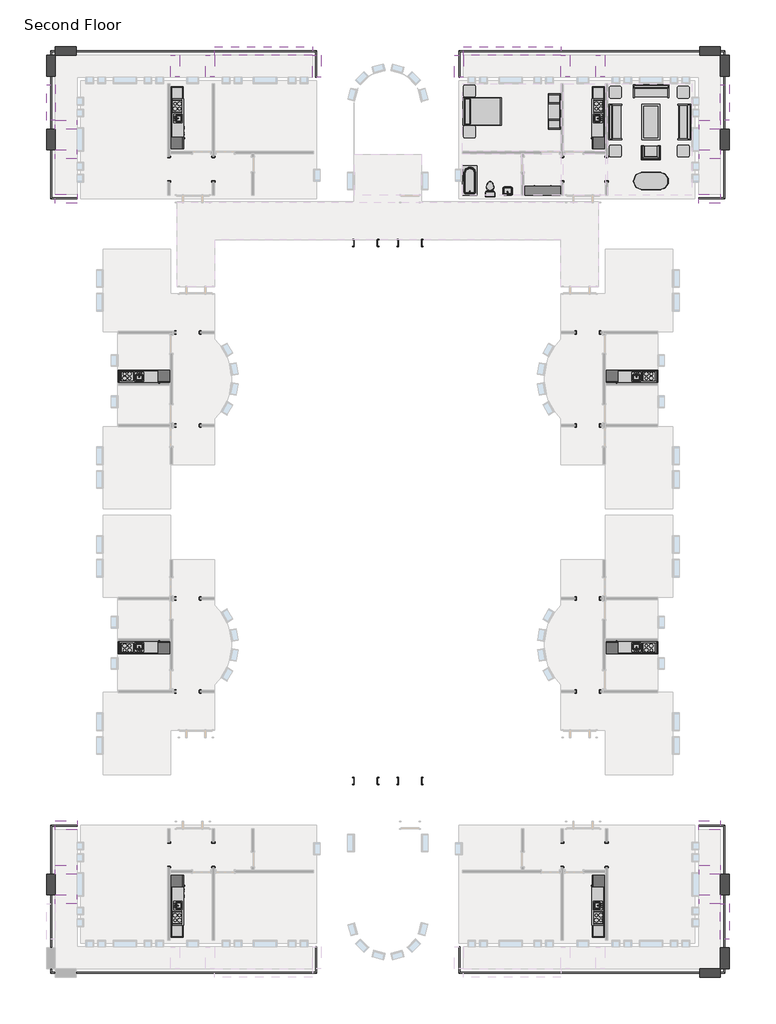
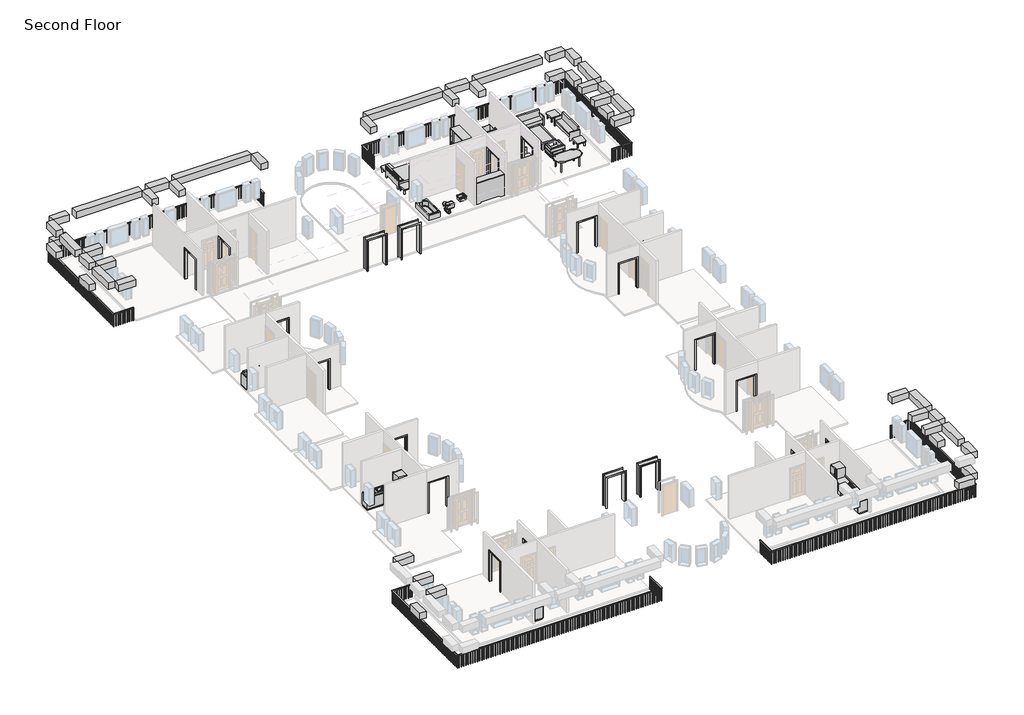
# One storey, part 4 of 4: 33 beams, 28 proxies, 15 furniture elements, 4 railings, 3 flow terminals.
"""IFC4 building model written with IfcOpenShell, lengths in millimetres."""

from ifc_helpers import new_model, si_unit, frame, origin, place, context, project, spatial, polyline, outline, extrude, transform, mapped, element, save
from components import kitchenette_medium_5_9f73a4de, kitchenette_medium_5_952fb32b, proxy_64a468c4, proxy_b7eaed23, proxy_f44482cc, proxy_c3589814, proxy_d58c73d0, proxy_1659ed5c, flow_terminal_0aeb31e3, toilet_domestic_3d_toilet_domestic_3d_f7549cf7, toilet_domestic_3d_toilet_domestic_3d_183bbd19, tub_rectangular_3d_tub_rectangular_3d_5e45a89b, furniture_096e7f55, chair_corbu_chair_corbu_2764bdef, furniture_7c473f12, furniture_ddc78764, furniture_4ef38d96, furniture_cd93a443, furniture_2c34a4f9, furniture_3a588284, furniture_1befe2a2, handrail_rectangular_d66f6947, handrail_rectangular_5e4642fa, handrail_rectangular_a9532e81, handrail_rectangular_55d58416

model = new_model("IFC4")

# Units and contexts
model_context = context("Model", 3, world=origin())
ifc_project = project(units=[si_unit("LENGTHUNIT", "METRE", prefix="MILLI")], contexts=[model_context])

# Site, building, storey
site = spatial("IfcSite", under=ifc_project)
building = spatial("IfcBuilding", under=site)
storey = spatial("IfcBuildingStorey", under=building, Name="Second Floor", Elevation=3048.0)

# Beams
placement = place(None, origin())
element("IfcBeam", 1, ObjectType="Concrete-Rectangular Beam : 18 x 18", at=placement, inside=storey, context=model_context, shape_type="SweptSolid", body=[
    extrude(outline(polyline([(2093.9410437, 12198.8316867), (2093.9410437, 11741.6316867), (1027.1410437, 11741.6316867), (1027.1410437, 12198.8316867), (2093.9410437, 12198.8316867)])), frame((0.0, 0.0, 5638.8), z_axis=(0.0, 0.0, 1.0), x_axis=(1.0, 0.0, 0.0)), (0.0, 0.0, 1.0), 457.2),
    extrude(outline(polyline([(569.9410437, 12198.8316867), (569.9410437, 11741.6316867), (-3862.3589563, 11741.6316867), (-3862.3589563, 12198.8316867), (569.9410437, 12198.8316867)])), frame((0.0, 0.0, 5638.8), z_axis=(0.0, 0.0, 1.0), x_axis=(1.0, 0.0, 0.0)), (0.0, 0.0, 1.0), 457.2),
    extrude(outline(polyline([(-5665.7589563, 11741.6316867), (-5665.7589563, 12198.8316867), (-4319.5589563, 12198.8316867), (-4319.5589563, 11741.6316867), (-5665.7589563, 11741.6316867)])), frame((0.0, 0.0, 5638.8), z_axis=(0.0, 0.0, 1.0), x_axis=(1.0, 0.0, 0.0)), (0.0, 0.0, 1.0), 457.2),
    extrude(outline(polyline([(-6122.9589563, 12198.8316867), (-6122.9589563, 11741.6316867), (-11164.8589563, 11741.6316867), (-11164.8589563, 12198.8316867), (-6122.9589563, 12198.8316867)])), frame((0.0, 0.0, 5638.8), z_axis=(0.0, 0.0, 1.0), x_axis=(1.0, 0.0, 0.0)), (0.0, 0.0, 1.0), 457.2),
])
element("IfcBeam", 2, ObjectType="Concrete-Rectangular Beam : 18 x 18", at=placement, inside=storey, context=model_context, shape_type="SweptSolid", body=[
    extrude(outline(polyline([(2093.9410437, 11741.6316867), (2551.1410437, 11741.6316867), (2551.1410437, 10674.8316867), (2093.9410437, 10674.8316867), (2093.9410437, 11741.6316867)])), frame((0.0, 0.0, 5638.8), z_axis=(0.0, 0.0, 1.0), x_axis=(1.0, 0.0, 0.0)), (0.0, 0.0, 1.0), 457.2),
    extrude(outline(polyline([(2551.1410437, 4578.8316867), (2093.9410437, 4578.8316867), (2093.9410437, 6407.6316867), (2551.1410437, 6407.6316867), (2551.1410437, 4578.8316867)])), frame((0.0, 0.0, 5638.8), z_axis=(0.0, 0.0, 1.0), x_axis=(1.0, 0.0, 0.0)), (0.0, 0.0, 1.0), 457.2),
    extrude(outline(polyline([(2551.1410437, 6864.8316867), (2093.9410437, 6864.8316867), (2093.9410437, 7931.6316867), (2551.1410437, 7931.6316867), (2551.1410437, 6864.8316867)])), frame((0.0, 0.0, 5638.8), z_axis=(0.0, 0.0, 1.0), x_axis=(1.0, 0.0, 0.0)), (0.0, 0.0, 1.0), 457.2),
    extrude(outline(polyline([(2093.9410437, 10217.6316867), (2551.1410437, 10217.6316867), (2551.1410437, 8388.8316867), (2093.9410437, 8388.8316867), (2093.9410437, 10217.6316867)])), frame((0.0, 0.0, 5638.8), z_axis=(0.0, 0.0, 1.0), x_axis=(1.0, 0.0, 0.0)), (0.0, 0.0, 1.0), 457.2),
])
element("IfcBeam", 3, ObjectType="Concrete-Rectangular Beam : 18 x 18", at=placement, inside=storey, context=model_context, shape_type="SweptSolid", body=[
    extrude(outline(polyline([(2093.9410437, 12198.8316867), (2093.9410437, 11741.6316867), (1027.1410437, 11741.6316867), (1027.1410437, 12198.8316867), (2093.9410437, 12198.8316867)])), frame((0.0, 0.0, 4114.8), z_axis=(0.0, 0.0, 1.0), x_axis=(1.0, 0.0, 0.0)), (0.0, 0.0, 1.0), 457.2),
])
element("IfcBeam", 4, ObjectType="Concrete-Rectangular Beam : 18 x 18", at=placement, inside=storey, context=model_context, shape_type="SweptSolid", body=[
    extrude(outline(polyline([(2551.1410437, 10674.8316867), (2093.9410437, 10674.8316867), (2093.9410437, 11741.6316867), (2551.1410437, 11741.6316867), (2551.1410437, 10674.8316867)])), frame((0.0, 0.0, 4114.8), z_axis=(0.0, 0.0, 1.0), x_axis=(1.0, 0.0, 0.0)), (0.0, 0.0, 1.0), 457.2),
])
element("IfcBeam", 5, ObjectType="Concrete-Rectangular Beam : 18 x 18", at=placement, inside=storey, context=model_context, shape_type="SweptSolid", body=[
    extrude(outline(polyline([(-11164.8589563, 10624.0316867), (-11622.0589563, 10624.0316867), (-11622.0589563, 11741.6316867), (-11164.8589563, 11741.6316867), (-11164.8589563, 10624.0316867)])), frame((0.0, 0.0, 5638.8), z_axis=(0.0, 0.0, 1.0), x_axis=(1.0, 0.0, 0.0)), (0.0, 0.0, 1.0), 457.2),
])
element("IfcBeam", 6, ObjectType="Concrete-Rectangular Beam : 18 x 18", at=placement, inside=storey, context=model_context, shape_type="SweptSolid", body=[
    extrude(outline(polyline([(-5665.7589563, 10643.0816867), (-6122.9589563, 10643.0816867), (-6122.9589563, 11741.6316867), (-5665.7589563, 11741.6316867), (-5665.7589563, 10643.0816867)])), frame((0.0, 0.0, 5638.8), z_axis=(0.0, 0.0, 1.0), x_axis=(1.0, 0.0, 0.0)), (0.0, 0.0, 1.0), 457.2),
])
element("IfcBeam", 7, ObjectType="Concrete-Rectangular Beam : 18 x 18", at=placement, inside=storey, context=model_context, shape_type="SweptSolid", body=[
    extrude(outline(polyline([(1001.7410437, 6407.6316867), (1001.7410437, 6864.8316867), (2093.9410437, 6864.8316867), (2093.9410437, 6407.6316867), (1001.7410437, 6407.6316867)])), frame((0.0, 0.0, 5638.8), z_axis=(0.0, 0.0, 1.0), x_axis=(1.0, 0.0, 0.0)), (0.0, 0.0, 1.0), 457.2),
])
element("IfcBeam", 8, ObjectType="Concrete-Rectangular Beam : 18 x 18", at=placement, inside=storey, context=model_context, shape_type="SweptSolid", body=[
    extrude(outline(polyline([(-3862.3589563, 10643.0816867), (-4319.5589563, 10643.0816867), (-4319.5589563, 11741.6316867), (-3862.3589563, 11741.6316867), (-3862.3589563, 10643.0816867)])), frame((0.0, 0.0, 5638.8), z_axis=(0.0, 0.0, 1.0), x_axis=(1.0, 0.0, 0.0)), (0.0, 0.0, 1.0), 457.2),
])
element("IfcBeam", 9, ObjectType="Concrete-Rectangular Beam : 18 x 18", at=placement, inside=storey, context=model_context, shape_type="SweptSolid", body=[
    extrude(outline(polyline([(1001.7410437, 7931.6316867), (1001.7410437, 8388.8316867), (2093.9410437, 8388.8316867), (2093.9410437, 7931.6316867), (1001.7410437, 7931.6316867)])), frame((0.0, 0.0, 5638.8), z_axis=(0.0, 0.0, 1.0), x_axis=(1.0, 0.0, 0.0)), (0.0, 0.0, 1.0), 457.2),
])
element("IfcBeam", 10, ObjectType="Concrete-Rectangular Beam : 18 x 18", at=placement, inside=storey, context=model_context, shape_type="SweptSolid", body=[
    extrude(outline(polyline([(976.3410437, 4121.6316867), (976.3410437, 4578.8316867), (2093.9410437, 4578.8316867), (2093.9410437, 4121.6316867), (976.3410437, 4121.6316867)])), frame((0.0, 0.0, 5638.8), z_axis=(0.0, 0.0, 1.0), x_axis=(1.0, 0.0, 0.0)), (0.0, 0.0, 1.0), 457.2),
])
element("IfcBeam", 11, ObjectType="Concrete-Rectangular Beam : 18 x 18", at=placement, inside=storey, context=model_context, shape_type="SweptSolid", body=[
    extrude(outline(polyline([(2551.1410437, 6864.8316867), (2093.9410437, 6864.8316867), (2093.9410437, 7931.6316867), (2551.1410437, 7931.6316867), (2551.1410437, 6864.8316867)])), frame((0.0, 0.0, 4114.8), z_axis=(0.0, 0.0, 1.0), x_axis=(1.0, 0.0, 0.0)), (0.0, 0.0, 1.0), 457.2),
])
element("IfcBeam", 12, ObjectType="Concrete-Rectangular Beam : 18 x 18", at=placement, inside=storey, context=model_context, shape_type="SweptSolid", body=[
    extrude(outline(polyline([(-32218.2839563, 11741.6316867), (-32218.2839563, 12198.8316867), (-31151.4839563, 12198.8316867), (-31151.4839563, 11741.6316867), (-32218.2839563, 11741.6316867)])), frame((0.0, 0.0, 5638.8), z_axis=(0.0, 0.0, 1.0), x_axis=(1.0, 0.0, 0.0)), (0.0, 0.0, 1.0), 457.2),
    extrude(outline(polyline([(-30694.2839563, 11741.6316867), (-30694.2839563, 12198.8316867), (-26261.9839563, 12198.8316867), (-26261.9839563, 11741.6316867), (-30694.2839563, 11741.6316867)])), frame((0.0, 0.0, 5638.8), z_axis=(0.0, 0.0, 1.0), x_axis=(1.0, 0.0, 0.0)), (0.0, 0.0, 1.0), 457.2),
    extrude(outline(polyline([(-24458.5839563, 12198.8316867), (-24458.5839563, 11741.6316867), (-25804.7839563, 11741.6316867), (-25804.7839563, 12198.8316867), (-24458.5839563, 12198.8316867)])), frame((0.0, 0.0, 5638.8), z_axis=(0.0, 0.0, 1.0), x_axis=(1.0, 0.0, 0.0)), (0.0, 0.0, 1.0), 457.2),
    extrude(outline(polyline([(-24001.3839563, 11741.6316867), (-24001.3839563, 12198.8316867), (-18959.4839563, 12198.8316867), (-18959.4839563, 11741.6316867), (-24001.3839563, 11741.6316867)])), frame((0.0, 0.0, 5638.8), z_axis=(0.0, 0.0, 1.0), x_axis=(1.0, 0.0, 0.0)), (0.0, 0.0, 1.0), 457.2),
])
element("IfcBeam", 13, ObjectType="Concrete-Rectangular Beam : 18 x 18", at=placement, inside=storey, context=model_context, shape_type="SweptSolid", body=[
    extrude(outline(polyline([(-32218.2839563, 4578.8316867), (-32675.4839563, 4578.8316867), (-32675.4839563, 6407.6316867), (-32218.2839563, 6407.6316867), (-32218.2839563, 4578.8316867)])), frame((0.0, 0.0, 5638.8), z_axis=(0.0, 0.0, 1.0), x_axis=(1.0, 0.0, 0.0)), (0.0, 0.0, 1.0), 457.2),
    extrude(outline(polyline([(-32675.4839563, 11741.6316867), (-32218.2839563, 11741.6316867), (-32218.2839563, 10674.8316867), (-32675.4839563, 10674.8316867), (-32675.4839563, 11741.6316867)])), frame((0.0, 0.0, 5638.8), z_axis=(0.0, 0.0, 1.0), x_axis=(1.0, 0.0, 0.0)), (0.0, 0.0, 1.0), 457.2),
    extrude(outline(polyline([(-32218.2839563, 6864.8316867), (-32675.4839563, 6864.8316867), (-32675.4839563, 7931.6316867), (-32218.2839563, 7931.6316867), (-32218.2839563, 6864.8316867)])), frame((0.0, 0.0, 5638.8), z_axis=(0.0, 0.0, 1.0), x_axis=(1.0, 0.0, 0.0)), (0.0, 0.0, 1.0), 457.2),
    extrude(outline(polyline([(-32675.4839563, 10217.6316867), (-32218.2839563, 10217.6316867), (-32218.2839563, 8388.8316867), (-32675.4839563, 8388.8316867), (-32675.4839563, 10217.6316867)])), frame((0.0, 0.0, 5638.8), z_axis=(0.0, 0.0, 1.0), x_axis=(1.0, 0.0, 0.0)), (0.0, 0.0, 1.0), 457.2),
])
element("IfcBeam", 14, ObjectType="Concrete-Rectangular Beam : 18 x 18", at=placement, inside=storey, context=model_context, shape_type="SweptSolid", body=[
    extrude(outline(polyline([(-32218.2839563, 12198.8316867), (-31151.4839563, 12198.8316867), (-31151.4839563, 11741.6316867), (-32218.2839563, 11741.6316867), (-32218.2839563, 12198.8316867)])), frame((0.0, 0.0, 4114.8), z_axis=(0.0, 0.0, 1.0), x_axis=(1.0, 0.0, 0.0)), (0.0, 0.0, 1.0), 457.2),
])
element("IfcBeam", 15, ObjectType="Concrete-Rectangular Beam : 18 x 18", at=placement, inside=storey, context=model_context, shape_type="SweptSolid", body=[
    extrude(outline(polyline([(-32675.4839563, 10674.8316867), (-32675.4839563, 11741.6316867), (-32218.2839563, 11741.6316867), (-32218.2839563, 10674.8316867), (-32675.4839563, 10674.8316867)])), frame((0.0, 0.0, 4114.8), z_axis=(0.0, 0.0, 1.0), x_axis=(1.0, 0.0, 0.0)), (0.0, 0.0, 1.0), 457.2),
])
element("IfcBeam", 16, ObjectType="Concrete-Rectangular Beam : 18 x 18", at=placement, inside=storey, context=model_context, shape_type="SweptSolid", body=[
    extrude(outline(polyline([(-18502.2839563, 10624.0316867), (-18959.4839563, 10624.0316867), (-18959.4839563, 11741.6316867), (-18502.2839563, 11741.6316867), (-18502.2839563, 10624.0316867)])), frame((0.0, 0.0, 5638.8), z_axis=(0.0, 0.0, 1.0), x_axis=(1.0, 0.0, 0.0)), (0.0, 0.0, 1.0), 457.2),
])
element("IfcBeam", 17, ObjectType="Concrete-Rectangular Beam : 18 x 18", at=placement, inside=storey, context=model_context, shape_type="SweptSolid", body=[
    extrude(outline(polyline([(-24001.3839563, 10643.0816867), (-24458.5839563, 10643.0816867), (-24458.5839563, 11741.6316867), (-24001.3839563, 11741.6316867), (-24001.3839563, 10643.0816867)])), frame((0.0, 0.0, 5638.8), z_axis=(0.0, 0.0, 1.0), x_axis=(1.0, 0.0, 0.0)), (0.0, 0.0, 1.0), 457.2),
])
element("IfcBeam", 18, ObjectType="Concrete-Rectangular Beam : 18 x 18", at=placement, inside=storey, context=model_context, shape_type="SweptSolid", body=[
    extrude(outline(polyline([(-31126.0839563, 6864.8316867), (-31126.0839563, 6407.6316867), (-32218.2839563, 6407.6316867), (-32218.2839563, 6864.8316867), (-31126.0839563, 6864.8316867)])), frame((0.0, 0.0, 5638.8), z_axis=(0.0, 0.0, 1.0), x_axis=(1.0, 0.0, 0.0)), (0.0, 0.0, 1.0), 457.2),
])
element("IfcBeam", 19, ObjectType="Concrete-Rectangular Beam : 18 x 18", at=placement, inside=storey, context=model_context, shape_type="SweptSolid", body=[
    extrude(outline(polyline([(-25804.7839563, 10643.0816867), (-26261.9839563, 10643.0816867), (-26261.9839563, 11741.6316867), (-25804.7839563, 11741.6316867), (-25804.7839563, 10643.0816867)])), frame((0.0, 0.0, 5638.8), z_axis=(0.0, 0.0, 1.0), x_axis=(1.0, 0.0, 0.0)), (0.0, 0.0, 1.0), 457.2),
])
element("IfcBeam", 20, ObjectType="Concrete-Rectangular Beam : 18 x 18", at=placement, inside=storey, context=model_context, shape_type="SweptSolid", body=[
    extrude(outline(polyline([(-31126.0839563, 8388.8316867), (-31126.0839563, 7931.6316867), (-32218.2839563, 7931.6316867), (-32218.2839563, 8388.8316867), (-31126.0839563, 8388.8316867)])), frame((0.0, 0.0, 5638.8), z_axis=(0.0, 0.0, 1.0), x_axis=(1.0, 0.0, 0.0)), (0.0, 0.0, 1.0), 457.2),
])
element("IfcBeam", 21, ObjectType="Concrete-Rectangular Beam : 18 x 18", at=placement, inside=storey, context=model_context, shape_type="SweptSolid", body=[
    extrude(outline(polyline([(-31100.6839563, 4578.8316867), (-31100.6839563, 4121.6316867), (-32218.2839563, 4121.6316867), (-32218.2839563, 4578.8316867), (-31100.6839563, 4578.8316867)])), frame((0.0, 0.0, 5638.8), z_axis=(0.0, 0.0, 1.0), x_axis=(1.0, 0.0, 0.0)), (0.0, 0.0, 1.0), 457.2),
])
element("IfcBeam", 22, ObjectType="Concrete-Rectangular Beam : 18 x 18", at=placement, inside=storey, context=model_context, shape_type="SweptSolid", body=[
    extrude(outline(polyline([(-32675.4839563, 6864.8316867), (-32675.4839563, 7931.6316867), (-32218.2839563, 7931.6316867), (-32218.2839563, 6864.8316867), (-32675.4839563, 6864.8316867)])), frame((0.0, 0.0, 4114.8), z_axis=(0.0, 0.0, 1.0), x_axis=(1.0, 0.0, 0.0)), (0.0, 0.0, 1.0), 457.2),
])
element("IfcBeam", 23, ObjectType="Concrete-Rectangular Beam : 18 x 18", at=placement, inside=storey, context=model_context, shape_type="SweptSolid", body=[
    extrude(outline(polyline([(2093.9410437, -28187.1683133), (2551.1410437, -28187.1683133), (2551.1410437, -30015.9683133), (2093.9410437, -30015.9683133), (2093.9410437, -28187.1683133)])), frame((0.0, 0.0, 5638.8), z_axis=(0.0, 0.0, 1.0), x_axis=(1.0, 0.0, 0.0)), (0.0, 0.0, 1.0), 457.2),
    extrude(outline(polyline([(2551.1410437, -35349.9683133), (2093.9410437, -35349.9683133), (2093.9410437, -34283.1683133), (2551.1410437, -34283.1683133), (2551.1410437, -35349.9683133)])), frame((0.0, 0.0, 5638.8), z_axis=(0.0, 0.0, 1.0), x_axis=(1.0, 0.0, 0.0)), (0.0, 0.0, 1.0), 457.2),
    extrude(outline(polyline([(2093.9410437, -30473.1683133), (2551.1410437, -30473.1683133), (2551.1410437, -31539.9683133), (2093.9410437, -31539.9683133), (2093.9410437, -30473.1683133)])), frame((0.0, 0.0, 5638.8), z_axis=(0.0, 0.0, 1.0), x_axis=(1.0, 0.0, 0.0)), (0.0, 0.0, 1.0), 457.2),
    extrude(outline(polyline([(2551.1410437, -33825.9683133), (2093.9410437, -33825.9683133), (2093.9410437, -31997.1683133), (2551.1410437, -31997.1683133), (2551.1410437, -33825.9683133)])), frame((0.0, 0.0, 5638.8), z_axis=(0.0, 0.0, 1.0), x_axis=(1.0, 0.0, 0.0)), (0.0, 0.0, 1.0), 457.2),
])
element("IfcBeam", 24, ObjectType="Concrete-Rectangular Beam : 18 x 18", at=placement, inside=storey, context=model_context, shape_type="SweptSolid", body=[
    extrude(outline(polyline([(2093.9410437, -35807.1683133), (1027.1410437, -35807.1683133), (1027.1410437, -35349.9683133), (2093.9410437, -35349.9683133), (2093.9410437, -35807.1683133)])), frame((0.0, 0.0, 4114.8), z_axis=(0.0, 0.0, 1.0), x_axis=(1.0, 0.0, 0.0)), (0.0, 0.0, 1.0), 457.2),
])
element("IfcBeam", 25, ObjectType="Concrete-Rectangular Beam : 18 x 18", at=placement, inside=storey, context=model_context, shape_type="SweptSolid", body=[
    extrude(outline(polyline([(2551.1410437, -34283.1683133), (2551.1410437, -35349.9683133), (2093.9410437, -35349.9683133), (2093.9410437, -34283.1683133), (2551.1410437, -34283.1683133)])), frame((0.0, 0.0, 4114.8), z_axis=(0.0, 0.0, 1.0), x_axis=(1.0, 0.0, 0.0)), (0.0, 0.0, 1.0), 457.2),
])
element("IfcBeam", 26, ObjectType="Concrete-Rectangular Beam : 18 x 18", at=placement, inside=storey, context=model_context, shape_type="SweptSolid", body=[
    extrude(outline(polyline([(1001.7410437, -30473.1683133), (1001.7410437, -30015.9683133), (2093.9410437, -30015.9683133), (2093.9410437, -30473.1683133), (1001.7410437, -30473.1683133)])), frame((0.0, 0.0, 5638.8), z_axis=(0.0, 0.0, 1.0), x_axis=(1.0, 0.0, 0.0)), (0.0, 0.0, 1.0), 457.2),
])
element("IfcBeam", 27, ObjectType="Concrete-Rectangular Beam : 18 x 18", at=placement, inside=storey, context=model_context, shape_type="SweptSolid", body=[
    extrude(outline(polyline([(1001.7410437, -31997.1683133), (1001.7410437, -31539.9683133), (2093.9410437, -31539.9683133), (2093.9410437, -31997.1683133), (1001.7410437, -31997.1683133)])), frame((0.0, 0.0, 5638.8), z_axis=(0.0, 0.0, 1.0), x_axis=(1.0, 0.0, 0.0)), (0.0, 0.0, 1.0), 457.2),
])
element("IfcBeam", 28, ObjectType="Concrete-Rectangular Beam : 18 x 18", at=placement, inside=storey, context=model_context, shape_type="SweptSolid", body=[
    extrude(outline(polyline([(976.3410437, -28187.1683133), (976.3410437, -27729.9683133), (2093.9410437, -27729.9683133), (2093.9410437, -28187.1683133), (976.3410437, -28187.1683133)])), frame((0.0, 0.0, 5638.8), z_axis=(0.0, 0.0, 1.0), x_axis=(1.0, 0.0, 0.0)), (0.0, 0.0, 1.0), 457.2),
])
element("IfcBeam", 29, ObjectType="Concrete-Rectangular Beam : 18 x 18", at=placement, inside=storey, context=model_context, shape_type="SweptSolid", body=[
    extrude(outline(polyline([(2551.1410437, -30473.1683133), (2551.1410437, -31539.9683133), (2093.9410437, -31539.9683133), (2093.9410437, -30473.1683133), (2551.1410437, -30473.1683133)])), frame((0.0, 0.0, 4114.8), z_axis=(0.0, 0.0, 1.0), x_axis=(1.0, 0.0, 0.0)), (0.0, 0.0, 1.0), 457.2),
])
element("IfcBeam", 30, ObjectType="Concrete-Rectangular Beam : 18 x 18", at=placement, inside=storey, context=model_context, shape_type="SweptSolid", body=[
    extrude(outline(polyline([(-31126.0839563, -30015.9683133), (-31126.0839563, -30473.1683133), (-32218.2839563, -30473.1683133), (-32218.2839563, -30015.9683133), (-31126.0839563, -30015.9683133)])), frame((0.0, 0.0, 5638.8), z_axis=(0.0, 0.0, 1.0), x_axis=(1.0, 0.0, 0.0)), (0.0, 0.0, 1.0), 457.2),
])
element("IfcBeam", 31, ObjectType="Concrete-Rectangular Beam : 18 x 18", at=placement, inside=storey, context=model_context, shape_type="SweptSolid", body=[
    extrude(outline(polyline([(-31126.0839563, -31539.9683133), (-31126.0839563, -31997.1683133), (-32218.2839563, -31997.1683133), (-32218.2839563, -31539.9683133), (-31126.0839563, -31539.9683133)])), frame((0.0, 0.0, 5638.8), z_axis=(0.0, 0.0, 1.0), x_axis=(1.0, 0.0, 0.0)), (0.0, 0.0, 1.0), 457.2),
])
element("IfcBeam", 32, ObjectType="Concrete-Rectangular Beam : 18 x 18", at=placement, inside=storey, context=model_context, shape_type="SweptSolid", body=[
    extrude(outline(polyline([(-31100.6839563, -27729.9683133), (-31100.6839563, -28187.1683133), (-32218.2839563, -28187.1683133), (-32218.2839563, -27729.9683133), (-31100.6839563, -27729.9683133)])), frame((0.0, 0.0, 5638.8), z_axis=(0.0, 0.0, 1.0), x_axis=(1.0, 0.0, 0.0)), (0.0, 0.0, 1.0), 457.2),
])
element("IfcBeam", 33, ObjectType="Concrete-Rectangular Beam : 18 x 18", at=placement, inside=storey, context=model_context, shape_type="SweptSolid", body=[
    extrude(outline(polyline([(-32675.4839563, -30473.1683133), (-32218.2839563, -30473.1683133), (-32218.2839563, -31539.9683133), (-32675.4839563, -31539.9683133), (-32675.4839563, -30473.1683133)])), frame((0.0, 0.0, 4114.8), z_axis=(0.0, 0.0, 1.0), x_axis=(1.0, 0.0, 0.0)), (0.0, 0.0, 1.0), 457.2),
])

# Proxies
kitchenette_medium_5_shape = kitchenette_medium_5_9f73a4de(model_context)
element("IfcBuildingElementProxy", 34, Name="Kitchenette - Medium : 5'", ObjectType="Kitchenette - Medium : 5'", at=placement, inside=storey, context=model_context, shape_type="MappedRepresentation", body=[
    mapped(kitchenette_medium_5_shape, transform((-28239.6966612, -4494.4827414, 3048.0), x_axis=(1.0, 0.0, 0.0), y_axis=(0.0, 1.0, 0.0), z_axis=(0.0, 0.0, 1.0))),
])
element("IfcBuildingElementProxy", 35, Name="Kitchenette - Medium : 5'", ObjectType="Kitchenette - Medium : 5'", at=placement, inside=storey, context=model_context, shape_type="MappedRepresentation", body=[
    mapped(kitchenette_medium_5_shape, transform((-1884.6462514, -19113.8538852, 3048.0), x_axis=(-1.0, 0.0, 0.0), y_axis=(0.0, -1.0, 0.0), z_axis=(0.0, 0.0, 1.0))),
])
kitchenette_medium_5_2_shape = kitchenette_medium_5_952fb32b(model_context)
element("IfcBuildingElementProxy", 36, Name="Kitchenette - Medium : 5'", ObjectType="Kitchenette - Medium : 5'", at=placement, inside=storey, context=model_context, shape_type="MappedRepresentation", body=[
    mapped(kitchenette_medium_5_2_shape, transform((-1884.6462514, -4494.4827414, 3048.0), x_axis=(-1.0, 0.0, 0.0), y_axis=(0.0, -1.0, 0.0), z_axis=(0.0, 0.0, 1.0))),
])
element("IfcBuildingElementProxy", 37, Name="Kitchenette - Medium : 5'", ObjectType="Kitchenette - Medium : 5'", at=placement, inside=storey, context=model_context, shape_type="MappedRepresentation", body=[
    mapped(kitchenette_medium_5_2_shape, transform((-28239.6966612, -19113.8538852, 3048.0), x_axis=(1.0, 0.0, 0.0), y_axis=(0.0, 1.0, 0.0), z_axis=(0.0, 0.0, 1.0))),
])
proxy_shape = proxy_64a468c4(model_context)
element("IfcBuildingElementProxy", 38, Name="Kitchenette - Medium : 8'6\"", ObjectType="Kitchenette - Medium : 8'6\"", at=placement, inside=storey, context=model_context, shape_type="MappedRepresentation", body=[
    mapped(proxy_shape, transform((-3887.7589563, 8837.7956433, 3048.0), x_axis=(0.0, -1.0, 0.0), y_axis=(1.0, 0.0, 0.0), z_axis=(0.0, 0.0, 1.0))),
])
element("IfcBuildingElementProxy", 39, Name="Kitchenette - Medium : 8'6\"", ObjectType="Kitchenette - Medium : 8'6\"", at=placement, inside=storey, context=model_context, shape_type="MappedRepresentation", body=[
    mapped(proxy_shape, transform((-26236.5839563, -32446.1322699, 3048.0), x_axis=(0.0, 1.0, 0.0), y_axis=(-1.0, 0.0, 0.0), z_axis=(0.0, 0.0, 1.0))),
])
proxy_2_shape = proxy_b7eaed23(model_context)
element("IfcBuildingElementProxy", 40, Name="Kitchenette - Medium : 8'6\"", ObjectType="Kitchenette - Medium : 8'6\"", at=placement, inside=storey, context=model_context, shape_type="MappedRepresentation", body=[
    mapped(proxy_2_shape, transform((-26236.5839563, 8837.7956433, 3048.0), x_axis=(0.0, -1.0, 0.0), y_axis=(1.0, 0.0, 0.0), z_axis=(0.0, 0.0, 1.0))),
])
element("IfcBuildingElementProxy", 41, Name="Kitchenette - Medium : 8'6\"", ObjectType="Kitchenette - Medium : 8'6\"", at=placement, inside=storey, context=model_context, shape_type="MappedRepresentation", body=[
    mapped(proxy_2_shape, transform((-3887.7589563, -32446.1322699, 3048.0), x_axis=(0.0, 1.0, 0.0), y_axis=(-1.0, 0.0, 0.0), z_axis=(0.0, 0.0, 1.0))),
])
proxy_3_shape = proxy_f44482cc(model_context)
element("IfcBuildingElementProxy", 42, Name="Opening-Cased : 48\" x 84\"", ObjectType="Opening-Cased : 48\" x 84\"", at=placement, inside=storey, context=model_context, shape_type="MappedRepresentation", body=[
    mapped(proxy_3_shape, transform((-3773.4589563, 5882.4203434, 3048.0), x_axis=(0.0, 1.0, 0.0), y_axis=(-1.0, 0.0, 0.0), z_axis=(0.0, 0.0, 1.0))),
])
element("IfcBuildingElementProxy", 43, Name="Opening-Cased : 48\" x 84\"", ObjectType="Opening-Cased : 48\" x 84\"", at=placement, inside=storey, context=model_context, shape_type="MappedRepresentation", body=[
    mapped(proxy_3_shape, transform((-6059.4589563, 5866.04303, 3048.0), x_axis=(0.0, -1.0, 0.0), y_axis=(1.0, 0.0, 0.0), z_axis=(0.0, 0.0, 1.0))),
])
element("IfcBuildingElementProxy", 44, Name="Opening-Cased : 48\" x 84\"", ObjectType="Opening-Cased : 48\" x 84\"", at=placement, inside=storey, context=model_context, shape_type="MappedRepresentation", body=[
    mapped(proxy_3_shape, transform((-25377.4952996, -7344.8808133, 3048.0), x_axis=(1.0, 0.0, 0.0), y_axis=(0.0, 1.0, 0.0), z_axis=(0.0, 0.0, 1.0))),
])
element("IfcBuildingElementProxy", 45, Name="Opening-Cased : 48\" x 84\"", ObjectType="Opening-Cased : 48\" x 84\"", at=placement, inside=storey, context=model_context, shape_type="MappedRepresentation", body=[
    mapped(proxy_3_shape, transform((-25393.872613, -2547.4558133, 3048.0), x_axis=(-1.0, 0.0, 0.0), y_axis=(0.0, -1.0, 0.0), z_axis=(0.0, 0.0, 1.0))),
])
element("IfcBuildingElementProxy", 46, Name="Opening-Cased : 48\" x 84\"", ObjectType="Opening-Cased : 48\" x 84\"", at=placement, inside=storey, context=model_context, shape_type="MappedRepresentation", body=[
    mapped(proxy_3_shape, transform((-4746.847613, -16263.4558133, 3048.0), x_axis=(-1.0, 0.0, 0.0), y_axis=(0.0, -1.0, 0.0), z_axis=(0.0, 0.0, 1.0))),
])
element("IfcBuildingElementProxy", 47, Name="Opening-Cased : 48\" x 84\"", ObjectType="Opening-Cased : 48\" x 84\"", at=placement, inside=storey, context=model_context, shape_type="MappedRepresentation", body=[
    mapped(proxy_3_shape, transform((-4730.4702996, -21060.8808133, 3048.0), x_axis=(1.0, 0.0, 0.0), y_axis=(0.0, 1.0, 0.0), z_axis=(0.0, 0.0, 1.0))),
])
element("IfcBuildingElementProxy", 48, Name="Opening-Cased : 48\" x 84\"", ObjectType="Opening-Cased : 48\" x 84\"", at=placement, inside=storey, context=model_context, shape_type="MappedRepresentation", body=[
    mapped(proxy_3_shape, transform((-26350.8839563, -29490.75697, 3048.0), x_axis=(0.0, -1.0, 0.0), y_axis=(1.0, 0.0, 0.0), z_axis=(0.0, 0.0, 1.0))),
])
element("IfcBuildingElementProxy", 49, Name="Opening-Cased : 48\" x 84\"", ObjectType="Opening-Cased : 48\" x 84\"", at=placement, inside=storey, context=model_context, shape_type="MappedRepresentation", body=[
    mapped(proxy_3_shape, transform((-24064.8839563, -29474.3796566, 3048.0), x_axis=(0.0, 1.0, 0.0), y_axis=(-1.0, 0.0, 0.0), z_axis=(0.0, 0.0, 1.0))),
])
proxy_4_shape = proxy_c3589814(model_context)
element("IfcBuildingElementProxy", 50, Name="Opening-Cased : 48\" x 84\"", ObjectType="Opening-Cased : 48\" x 84\"", at=placement, inside=storey, context=model_context, shape_type="MappedRepresentation", body=[
    mapped(proxy_4_shape, transform((-16213.360113, 2064.2316867, 3048.0), x_axis=(-1.0, 0.0, 0.0), y_axis=(0.0, -1.0, 0.0), z_axis=(0.0, 0.0, 1.0))),
])
element("IfcBuildingElementProxy", 51, Name="Opening-Cased : 48\" x 84\"", ObjectType="Opening-Cased : 48\" x 84\"", at=placement, inside=storey, context=model_context, shape_type="MappedRepresentation", body=[
    mapped(proxy_4_shape, transform((-13927.360113, 2064.2316867, 3048.0), x_axis=(-1.0, 0.0, 0.0), y_axis=(0.0, -1.0, 0.0), z_axis=(0.0, 0.0, 1.0))),
])
proxy_5_shape = proxy_d58c73d0(model_context)
element("IfcBuildingElementProxy", 52, Name="Opening-Cased : 48\" x 84\"", ObjectType="Opening-Cased : 48\" x 84\"", at=placement, inside=storey, context=model_context, shape_type="MappedRepresentation", body=[
    mapped(proxy_5_shape, transform((-4746.847613, -7344.8808133, 3048.0), x_axis=(-1.0, 0.0, 0.0), y_axis=(0.0, -1.0, 0.0), z_axis=(0.0, 0.0, 1.0))),
])
element("IfcBuildingElementProxy", 53, Name="Opening-Cased : 48\" x 84\"", ObjectType="Opening-Cased : 48\" x 84\"", at=placement, inside=storey, context=model_context, shape_type="MappedRepresentation", body=[
    mapped(proxy_5_shape, transform((-4730.4702996, -2547.4558133, 3048.0), x_axis=(1.0, 0.0, 0.0), y_axis=(0.0, 1.0, 0.0), z_axis=(0.0, 0.0, 1.0))),
])
element("IfcBuildingElementProxy", 54, Name="Opening-Cased : 48\" x 84\"", ObjectType="Opening-Cased : 48\" x 84\"", at=placement, inside=storey, context=model_context, shape_type="MappedRepresentation", body=[
    mapped(proxy_5_shape, transform((-26350.8839563, 5882.4203434, 3048.0), x_axis=(0.0, 1.0, 0.0), y_axis=(-1.0, 0.0, 0.0), z_axis=(0.0, 0.0, 1.0))),
])
element("IfcBuildingElementProxy", 55, Name="Opening-Cased : 48\" x 84\"", ObjectType="Opening-Cased : 48\" x 84\"", at=placement, inside=storey, context=model_context, shape_type="MappedRepresentation", body=[
    mapped(proxy_5_shape, transform((-24064.8839563, 5866.04303, 3048.0), x_axis=(0.0, -1.0, 0.0), y_axis=(1.0, 0.0, 0.0), z_axis=(0.0, 0.0, 1.0))),
])
element("IfcBuildingElementProxy", 56, Name="Opening-Cased : 48\" x 84\"", ObjectType="Opening-Cased : 48\" x 84\"", at=placement, inside=storey, context=model_context, shape_type="MappedRepresentation", body=[
    mapped(proxy_5_shape, transform((-3773.4589563, -29490.75697, 3048.0), x_axis=(0.0, -1.0, 0.0), y_axis=(1.0, 0.0, 0.0), z_axis=(0.0, 0.0, 1.0))),
])
element("IfcBuildingElementProxy", 57, Name="Opening-Cased : 48\" x 84\"", ObjectType="Opening-Cased : 48\" x 84\"", at=placement, inside=storey, context=model_context, shape_type="MappedRepresentation", body=[
    mapped(proxy_5_shape, transform((-6059.4589563, -29474.3796566, 3048.0), x_axis=(0.0, 1.0, 0.0), y_axis=(-1.0, 0.0, 0.0), z_axis=(0.0, 0.0, 1.0))),
])
element("IfcBuildingElementProxy", 58, Name="Opening-Cased : 48\" x 84\"", ObjectType="Opening-Cased : 48\" x 84\"", at=placement, inside=storey, context=model_context, shape_type="MappedRepresentation", body=[
    mapped(proxy_5_shape, transform((-25377.4952996, -16263.4558133, 3048.0), x_axis=(1.0, 0.0, 0.0), y_axis=(0.0, 1.0, 0.0), z_axis=(0.0, 0.0, 1.0))),
])
element("IfcBuildingElementProxy", 59, Name="Opening-Cased : 48\" x 84\"", ObjectType="Opening-Cased : 48\" x 84\"", at=placement, inside=storey, context=model_context, shape_type="MappedRepresentation", body=[
    mapped(proxy_5_shape, transform((-25393.872613, -21060.8808133, 3048.0), x_axis=(-1.0, 0.0, 0.0), y_axis=(0.0, -1.0, 0.0), z_axis=(0.0, 0.0, 1.0))),
])
proxy_6_shape = proxy_1659ed5c(model_context)
element("IfcBuildingElementProxy", 60, Name="Opening-Cased : 48\" x 84\"", ObjectType="Opening-Cased : 48\" x 84\"", at=placement, inside=storey, context=model_context, shape_type="MappedRepresentation", body=[
    mapped(proxy_6_shape, transform((-16213.360113, -25672.5683133, 3048.0), x_axis=(-1.0, 0.0, 0.0), y_axis=(0.0, -1.0, 0.0), z_axis=(0.0, 0.0, 1.0))),
])
element("IfcBuildingElementProxy", 61, Name="Opening-Cased : 48\" x 84\"", ObjectType="Opening-Cased : 48\" x 84\"", at=placement, inside=storey, context=model_context, shape_type="MappedRepresentation", body=[
    mapped(proxy_6_shape, transform((-13927.360113, -25672.5683133, 3048.0), x_axis=(-1.0, 0.0, 0.0), y_axis=(0.0, -1.0, 0.0), z_axis=(0.0, 0.0, 1.0))),
])

# Flow terminals
flow_terminal_shape = flow_terminal_0aeb31e3(model_context)
element("IfcFlowTerminal", 62, ObjectType="Sink Vanity-Square : 24\" x 19\"", at=placement, inside=storey, context=model_context, shape_type="MappedRepresentation", body=[
    mapped(flow_terminal_shape, transform((-8864.7572157, 4706.5895878, 3048.0), x_axis=(-1.0, 0.0, 0.0), y_axis=(0.0, -1.0, 0.0), z_axis=(0.0, 0.0, 1.0))),
])
toilet_domestic_3d_toilet_domestic_3d_shape = toilet_domestic_3d_toilet_domestic_3d_f7549cf7(model_context)
toilet_domestic_3d_toilet_domestic_3d_2_shape = toilet_domestic_3d_toilet_domestic_3d_183bbd19(model_context)
element("IfcFlowTerminal", 63, ObjectType="Toilet-Domestic-3D : Toilet-Domestic-3D", at=placement, inside=storey, context=model_context, shape_type="MappedRepresentation", body=[
    mapped(toilet_domestic_3d_toilet_domestic_3d_shape, transform((-9782.1466587, 4940.866411, 3048.0), x_axis=(-1.0000000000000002, 0.0, 0.0), y_axis=(0.0, -1.0000000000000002, 0.0), z_axis=(0.0, 0.0, 1.0))),
    mapped(toilet_domestic_3d_toilet_domestic_3d_2_shape, transform((-9782.1466587, 4940.866411, 3048.0), x_axis=(-1.0000000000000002, 0.0, 0.0), y_axis=(0.0, -1.0000000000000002, 0.0), z_axis=(0.0, 0.0, 1.0))),
])
tub_rectangular_3d_tub_rectangular_3d_shape = tub_rectangular_3d_tub_rectangular_3d_5e45a89b(model_context)
element("IfcFlowTerminal", 64, ObjectType="Tub-Rectangular-3D : Tub-Rectangular-3D", at=placement, inside=storey, context=model_context, shape_type="MappedRepresentation", body=[
    mapped(tub_rectangular_3d_tub_rectangular_3d_shape, transform((-11393.4589563, 5637.0471554, 3048.0), x_axis=(0.0, 1.0, 0.0), y_axis=(-1.0, 0.0, 0.0), z_axis=(0.0, 0.0, 1.0))),
])

# Furniture
furniture_shape = furniture_096e7f55(model_context)
element("IfcFurniture", 65, ObjectType="Bed-Shaker : Double 56\" x 78\"", at=placement, inside=storey, context=model_context, shape_type="MappedRepresentation", body=[
    mapped(furniture_shape, transform((-11183.1982802, 8871.8755561, 3048.0), x_axis=(0.0, 1.0, 0.0), y_axis=(-1.0, 0.0, 0.0), z_axis=(0.0, 0.0, 1.0))),
])
chair_corbu_chair_corbu_shape = chair_corbu_chair_corbu_2764bdef(model_context)
element("IfcFurniture", 66, ObjectType="Chair-Corbu : Chair-Corbu", at=placement, inside=storey, context=model_context, shape_type="MappedRepresentation", body=[
    mapped(chair_corbu_chair_corbu_shape, transform((-914.0851858, 7193.4962359, 3048.0), x_axis=(-1.0, 0.0, 0.0), y_axis=(0.0, -1.0, 0.0), z_axis=(0.0, 0.0, 1.0))),
])
furniture_2_shape = furniture_7c473f12(model_context)
element("IfcFurniture", 67, ObjectType="Dresser : 72\" x 60\" x 18\"", at=placement, inside=storey, context=model_context, shape_type="MappedRepresentation", body=[
    mapped(furniture_2_shape, transform((-7344.6522161, 4404.5812326, 3048.0), x_axis=(-1.0, 0.0, 0.0), y_axis=(0.0, -1.0, 0.0), z_axis=(0.0, 0.0, 1.0))),
])
furniture_3_shape = furniture_ddc78764(model_context)
element("IfcFurniture", 68, ObjectType="Entertainment Center : 72\" x 72\" x 24\"", at=placement, inside=storey, context=model_context, shape_type="MappedRepresentation", body=[
    mapped(furniture_3_shape, transform((-6059.4589563, 8852.8255561, 3048.0), x_axis=(0.0, -1.0, 0.0), y_axis=(1.0, 0.0, 0.0), z_axis=(0.0, 0.0, 1.0))),
])
furniture_4_shape = furniture_4ef38d96(model_context)
element("IfcFurniture", 69, ObjectType="Sofa : 72\"", at=placement, inside=storey, context=model_context, shape_type="MappedRepresentation", body=[
    mapped(furniture_4_shape, transform((-1557.8294481, 9741.2775883, 3048.0), x_axis=(1.0, 0.0, 0.0), y_axis=(0.0, 1.0, 0.0), z_axis=(0.0, 0.0, 1.0))),
])
element("IfcFurniture", 70, ObjectType="Sofa : 72\"", at=placement, inside=storey, context=model_context, shape_type="MappedRepresentation", body=[
    mapped(furniture_4_shape, transform((93.5869453, 8383.0021785, 3048.0), x_axis=(0.0, -1.0, 0.0), y_axis=(1.0, 0.0, 0.0), z_axis=(0.0, 0.0, 1.0))),
])
element("IfcFurniture", 71, ObjectType="Sofa : 72\"", at=placement, inside=storey, context=model_context, shape_type="MappedRepresentation", body=[
    mapped(furniture_4_shape, transform((-3170.104858, 8242.2611949, 3048.0), x_axis=(0.0, 1.0, 0.0), y_axis=(-1.0, 0.0, 0.0), z_axis=(0.0, 0.0, 1.0))),
])
furniture_5_shape = furniture_cd93a443(model_context)
element("IfcFurniture", 72, ObjectType="Table-Coffee : 36\" x 72\" x 18\"", at=placement, inside=storey, context=model_context, shape_type="MappedRepresentation", body=[
    mapped(furniture_5_shape, transform((-1582.6700341, 8330.8974534, 3048.0), x_axis=(0.0, -1.0, 0.0), y_axis=(1.0, 0.0, 0.0), z_axis=(0.0, 0.0, 1.0))),
])
furniture_6_shape = furniture_2c34a4f9(model_context)
element("IfcFurniture", 73, ObjectType="Table-Dining Oval : 36\" x 72\"", at=placement, inside=storey, context=model_context, shape_type="MappedRepresentation", body=[
    mapped(furniture_6_shape, transform((-1085.6392842, 5622.7300473, 3048.0), x_axis=(1.0, 0.0, 0.0), y_axis=(0.0, 1.0, 0.0), z_axis=(0.0, 0.0, 1.0))),
])
furniture_7_shape = furniture_3a588284(model_context)
element("IfcFurniture", 74, ObjectType="Table-End : 24\" x 24\"", at=placement, inside=storey, context=model_context, shape_type="MappedRepresentation", body=[
    mapped(furniture_7_shape, transform((-119.5925866, 9684.2316867, 3048.0), x_axis=(1.0, 0.0, 0.0), y_axis=(0.0, 1.0, 0.0), z_axis=(0.0, 0.0, 1.0))),
])
element("IfcFurniture", 75, ObjectType="Table-End : 24\" x 24\"", at=placement, inside=storey, context=model_context, shape_type="MappedRepresentation", body=[
    mapped(furniture_7_shape, transform((-3624.7925866, 9684.2316867, 3048.0), x_axis=(1.0, 0.0, 0.0), y_axis=(0.0, 1.0, 0.0), z_axis=(0.0, 0.0, 1.0))),
])
element("IfcFurniture", 76, ObjectType="Table-End : 24\" x 24\"", at=placement, inside=storey, context=model_context, shape_type="MappedRepresentation", body=[
    mapped(furniture_7_shape, transform((-3624.7925866, 6660.0441867, 3048.0), x_axis=(1.0, 0.0, 0.0), y_axis=(0.0, 1.0, 0.0), z_axis=(0.0, 0.0, 1.0))),
])
element("IfcFurniture", 77, ObjectType="Table-End : 24\" x 24\"", at=placement, inside=storey, context=model_context, shape_type="MappedRepresentation", body=[
    mapped(furniture_7_shape, transform((-119.5925866, 6660.0441867, 3048.0), x_axis=(1.0, 0.0, 0.0), y_axis=(0.0, 1.0, 0.0), z_axis=(0.0, 0.0, 1.0))),
])
element("IfcFurniture", 78, ObjectType="Table-End : 24\" x 24\"", at=placement, inside=storey, context=model_context, shape_type="MappedRepresentation", body=[
    mapped(furniture_7_shape, transform((-11164.2346356, 9756.0737357, 3048.0), x_axis=(1.0, 0.0, 0.0), y_axis=(0.0, 1.0, 0.0), z_axis=(0.0, 0.0, 1.0))),
])
furniture_8_shape = furniture_1befe2a2(model_context)
element("IfcFurniture", 79, ObjectType="Table-End : 24\" x 24\"", at=placement, inside=storey, context=model_context, shape_type="MappedRepresentation", body=[
    mapped(furniture_8_shape, transform((-11164.2346356, 7949.5773764, 3048.0), x_axis=(1.0, 0.0, 0.0), y_axis=(0.0, 1.0, 0.0), z_axis=(0.0, 0.0, 1.0))),
])

# Railings
handrail_rectangular_shape = handrail_rectangular_d66f6947(model_context)
element("IfcRailing", 80, ObjectType="Handrail - Rectangular", at=placement, inside=storey, context=model_context, shape_type="MappedRepresentation", body=[
    mapped(handrail_rectangular_shape, transform((0.0, 0.0, 0.0), x_axis=(1.0, 0.0, 0.0), y_axis=(0.0, 1.0, 0.0), z_axis=(0.0, 0.0, 1.0))),
])
handrail_rectangular_2_shape = handrail_rectangular_5e4642fa(model_context)
element("IfcRailing", 81, ObjectType="Handrail - Rectangular", at=placement, inside=storey, context=model_context, shape_type="MappedRepresentation", body=[
    mapped(handrail_rectangular_2_shape, transform((0.0, 0.0, 0.0), x_axis=(1.0, 0.0, 0.0), y_axis=(0.0, 1.0, 0.0), z_axis=(0.0, 0.0, 1.0))),
])
handrail_rectangular_3_shape = handrail_rectangular_a9532e81(model_context)
element("IfcRailing", 82, ObjectType="Handrail - Rectangular", at=placement, inside=storey, context=model_context, shape_type="MappedRepresentation", body=[
    mapped(handrail_rectangular_3_shape, transform((0.0, 0.0, 0.0), x_axis=(1.0, 0.0, 0.0), y_axis=(0.0, 1.0, 0.0), z_axis=(0.0, 0.0, 1.0))),
])
handrail_rectangular_4_shape = handrail_rectangular_55d58416(model_context)
element("IfcRailing", 83, ObjectType="Handrail - Rectangular", at=placement, inside=storey, context=model_context, shape_type="MappedRepresentation", body=[
    mapped(handrail_rectangular_4_shape, transform((0.0, 0.0, 0.0), x_axis=(1.0, 0.0, 0.0), y_axis=(0.0, 1.0, 0.0), z_axis=(0.0, 0.0, 1.0))),
])

save(model, "model.ifc")
